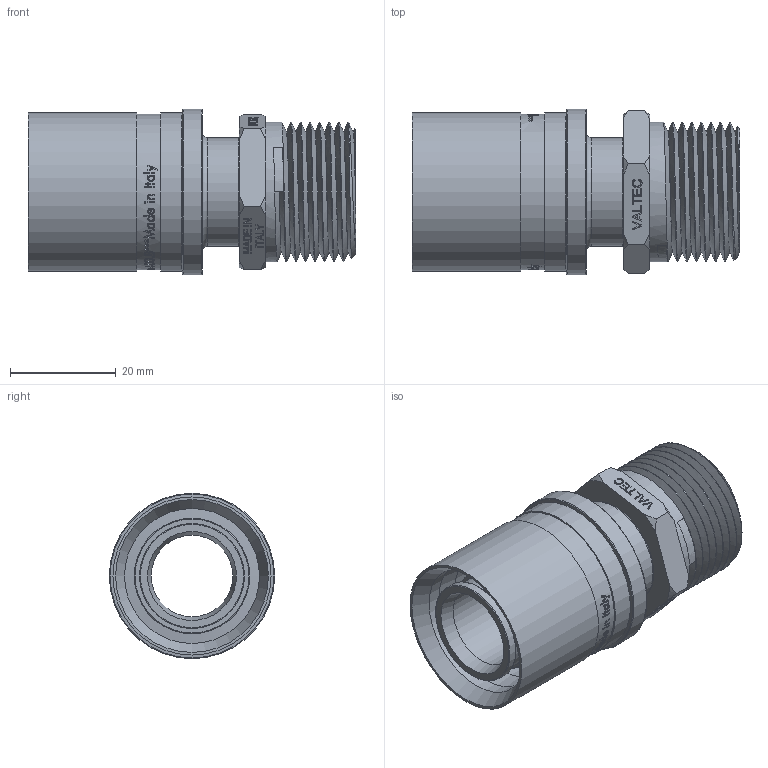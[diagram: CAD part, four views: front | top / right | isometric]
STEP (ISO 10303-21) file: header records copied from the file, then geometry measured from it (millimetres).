
FILE_DESCRIPTION(/* description */ (''),/* implementation_level */ '2;1');
FILE_NAME(/* name */ 'F:\Артём\00000\Работа удаленка\Аксеальные фитинги\VTm.401.BG.002505.stp',/* time_stamp */ '2021-01-25T14:13:01+03:00',/* author */ ('almis'),/* organization */ (''),/* preprocessor_version */ 'ST-DEVELOPER v18',/* originating_system */ 'Autodesk Inventor 2020',/* authorisation */ '');
FILE_SCHEMA (('AUTOMOTIVE_DESIGN { 1 0 10303 214 3 1 1 }'));
Length unit declared in the file: millimetre
Products named in the file (1): VTm.403.BG.001616
Bounding box: 61.81 x 31.2 x 31.2 mm (x, y, z)
Volume: 16062.1 mm3; surface area: 15900.7 mm2
Topology: 1 solids, 1 shells, 1012 faces, 2777 edges, 1869 vertices
Faces by surface type: plane 446, bspline 426, cylinder 94, torus 24, cone 22
Full cylindrical faces by diameter (mm): 15.4 x1, 18.3 x5, 19.8 x4, 20 x1, 20.5 x1, 21.8 x1, 22.8 x8, 25.5 x2, 26.4 x7, 29.3 x1, 29.85 x2, 31.2 x1
Entity records: 41119 total; most frequent: CARTESIAN_POINT 17975, ORIENTED_EDGE 5554, DIRECTION 3439, EDGE_CURVE 2777, VERTEX_POINT 1869, LINE 1463, VECTOR 1463, EDGE_LOOP 1116
